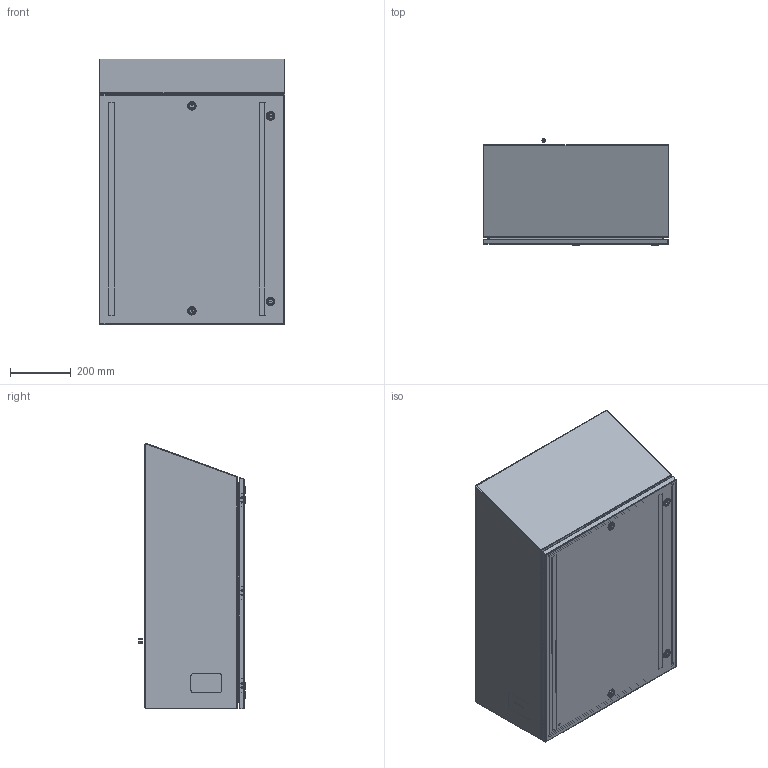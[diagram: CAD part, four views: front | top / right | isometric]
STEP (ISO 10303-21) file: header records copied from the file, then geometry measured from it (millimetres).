
FILE_DESCRIPTION(/* description */ ('Unknown'),/* implementation_level */ '2;1');
FILE_NAME(/* name */ 'ST302412SS',/* time_stamp */ '2018-12-05T13:57:10-05:00',/* author */ ('Unknown'),/* organization */ ('Unknown'),/* preprocessor_version */ 'ST-DEVELOPER v16.7',/* originating_system */ 'DEX',/* authorisation */ $);
FILE_SCHEMA (('AP203_CONFIGURATION_CONTROLLED_3D_DESIGN_OF_MECHANICAL_PARTS_AND_ASSEMBLIES_MIM_LF { 1 0 10303 203 3 1 4 }','AP242_MANAGED_MODEL_BASED_3D_ENGINEERING_MIM_LF { 1 0 10303 442 1 1 4 }','AUTOMOTIVE_DESIGN {1 0 10303 214 3 1 1}'));
Length unit declared in the file: millimetre
Products named in the file (26): ST302412SS; KIT90674; NTS16535; NTS165305; BUL10020; BUL10136; QLB20183; PIN17645; HNG14573-1; std26107; STD26258; COM56115-7; HNG14573-2; COM53854; LOK10007; LOK10007nut; LOK10007INSERT; LOK10007SC; LOK10007CAM; COM70220_oa_0; COM70413; CAP02342; COM70414; COM70412
Assembly tree (41 placements, depth 3):
  ST302412SS
    KIT90674
      NTS16535
      NTS165305
      BUL10020
      BUL10136
    QLB20183
    PIN17645  x3
    HNG14573-1  x3
    std26107  x4
    STD26258
    COM56115-7
      HNG14573-2  x3
      STD26258
      COM56115-7
      COM53854  x2
    LOK10007  x4
      LOK10007nut
      LOK10007INSERT
      LOK10007SC
      LOK10007CAM
      LOK10007
    COM70220_oa_0
    COM70413
    CAP02342  x3
    COM70414
    COM70412
Bounding box: 609.8 x 351.56 x 871.92 mm (x, y, z)
Volume: 3933524.6 mm3; surface area: 4347792.2 mm2
Topology: 48 solids, 49 shells, 1178 faces, 2819 edges, 1808 vertices
Faces by surface type: plane 684, cylinder 251, bspline 157, torus 55, cone 31
Full cylindrical faces by diameter (mm): 4.369 x3, 4.976 x1, 5 x4, 5.74 x3, 6 x4, 6.096 x3, 6.35 x3, 6.985 x4, 7.417 x3, 7.938 x6, 9.83 x8, 10.109 x9, 11.557 x6, 12.7 x12, 13.335 x4, 15.875 x8, 16.002 x4, 19.5 x4, 19.939 x4, 27.94 x4
Entity records: 22649 total; most frequent: CARTESIAN_POINT 6449, ORIENTED_EDGE 3356, DIRECTION 2795, EDGE_CURVE 1678, VERTEX_POINT 1096, LINE 1055, VECTOR 1055, AXIS2_PLACEMENT_3D 870
